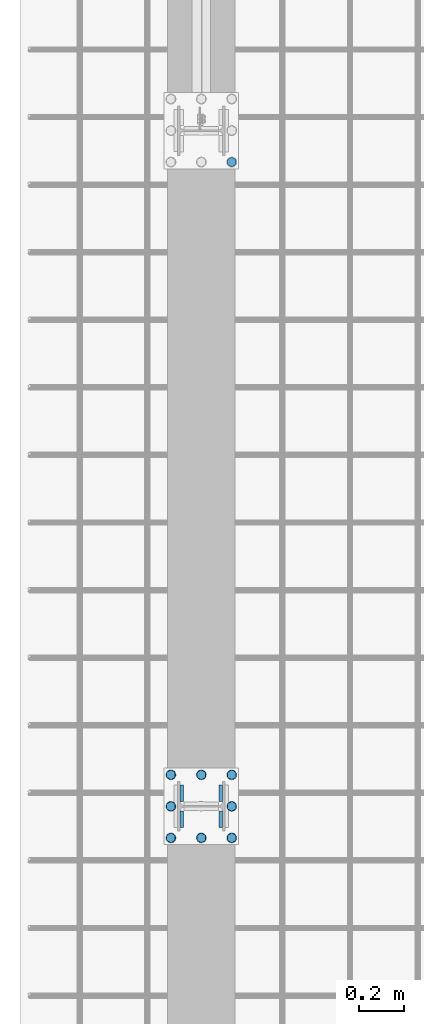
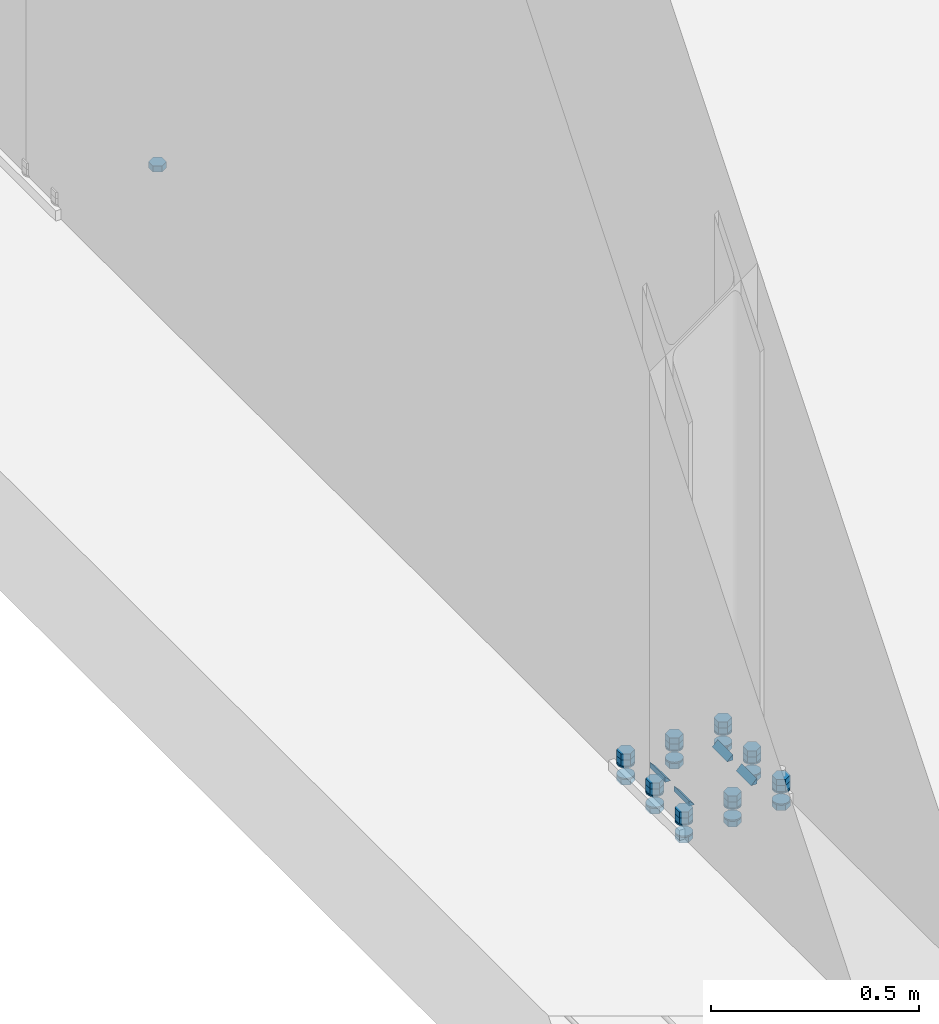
# One storey, part 19 of 29: 41 mechanical fasteners, 8 fasteners.
"""IFC4 building model written with IfcOpenShell, lengths in metres."""

from ifc_helpers import new_model, si_unit, frame, origin_with_axes, place, context, project, spatial, polyline, outline, extrude, type_object, element, save


model = new_model("IFC4")

# Units and contexts
model_context = context("Model", 3, precision=1e-05, world=origin_with_axes())
ifc_project = project(units=[si_unit("LENGTHUNIT", "METRE"), si_unit("AREAUNIT", "SQUARE_METRE"), si_unit("VOLUMEUNIT", "CUBIC_METRE"), si_unit("MASSUNIT", "GRAM", prefix="KILO"), si_unit("TIMEUNIT", "SECOND"), si_unit("PLANEANGLEUNIT", "RADIAN"), si_unit("SOLIDANGLEUNIT", "STERADIAN"), si_unit("THERMODYNAMICTEMPERATUREUNIT", "DEGREE_CELSIUS")], contexts=[model_context])

# Site, building, storey
placement_1 = place(None, origin_with_axes())
site = spatial("IfcSite", under=ifc_project, at=placement_1, Name="Italia", CompositionType="ELEMENT")
building = spatial("IfcBuilding", under=site, at=placement_1, Name="Capannone", CompositionType="ELEMENT")
storey = spatial("IfcBuildingStorey", under=building, at=placement_1, Name="Storey 0", CompositionType="ELEMENT", Elevation=0.0)

# Fasteners
fastener_type_1 = type_object("IfcFastenerType", Name="Collegamenti 0001_0101 0002_0102 0003_0103 0004_0104 0005_0105 0006_0106 0007_0107 0008_0108 0009_0109 0010_0110 0011_0111 0012_0112", PredefinedType="WELD")
placement_2 = place(placement_1, origin_with_axes())
fastener_1_placement = place(placement_2, origin_with_axes())
element("IfcFastener", 1, at=fastener_1_placement, inside=storey, type_object=fastener_type_1, Name="Collegamenti 0001_0101 0002_0102 0003_0103 0004_0104 0005_0105 0006_0106 0007_0107 0008_0108 0009_0109 0010_0110 0011_0111 0012_0112", context=model_context, shape_type="SweptSolid", body=[
    extrude(outline(polyline([(0.0, 0.0), (0.0156882, 0.0161734), (0.0156882, 0.0), (0.0, 0.0)])), frame((-0.0783618, 9.02145, 0.02995), z_axis=(0.0, 1.0, 0.0), x_axis=(-1.0, 0.0, 0.0)), (0.0, 0.0, 1.0), 0.0726004),
])
fastener_type_2 = type_object("IfcFastenerType", Name="Collegamenti 0001_0101 0002_0102 0003_0103 0004_0104 0005_0105 0006_0106 0007_0107 0008_0108 0009_0109 0010_0110 0011_0111 0012_0112", PredefinedType="WELD")
fastener_2_placement = place(placement_2, origin_with_axes())
element("IfcFastener", 2, at=fastener_2_placement, inside=storey, type_object=fastener_type_2, Name="Collegamenti 0001_0101 0002_0102 0003_0103 0004_0104 0005_0105 0006_0106 0007_0107 0008_0108 0009_0109 0010_0110 0011_0111 0012_0112", context=model_context, shape_type="SweptSolid", body=[
    extrude(outline(polyline([(0.0, 0.0), (0.0156882, 0.0161734), (0.0156882, 0.0), (0.0, 0.0)])), frame((0.0783618, 9.09405, 0.02995), z_axis=(0.0, -1.0, 0.0), x_axis=(1.0, 0.0, 0.0)), (0.0, 0.0, 1.0), 0.0726004),
])
fastener_type_3 = type_object("IfcFastenerType", Name="Collegamenti 0001_0101 0002_0102 0003_0103 0004_0104 0005_0105 0006_0106 0007_0107 0008_0108 0009_0109 0010_0110 0011_0111 0012_0112", PredefinedType="WELD")
fastener_3_placement = place(placement_2, origin_with_axes())
element("IfcFastener", 3, at=fastener_3_placement, inside=storey, type_object=fastener_type_3, Name="Collegamenti 0001_0101 0002_0102 0003_0103 0004_0104 0005_0105 0006_0106 0007_0107 0008_0108 0009_0109 0010_0110 0011_0111 0012_0112", context=model_context, shape_type="SweptSolid", body=[
    extrude(outline(polyline([(0.0, 0.0), (0.0156882, 0.0161734), (0.0156882, 0.0), (0.0, 0.0)])), frame((0.0783618, 8.97855, 0.02995), z_axis=(0.0, -1.0, 0.0), x_axis=(1.0, 0.0, 0.0)), (0.0, 0.0, 1.0), 0.0726004),
])
fastener_type_4 = type_object("IfcFastenerType", Name="Collegamenti 0001_0101 0002_0102 0003_0103 0004_0104 0005_0105 0006_0106 0007_0107 0008_0108 0009_0109 0010_0110 0011_0111 0012_0112", PredefinedType="WELD")
fastener_4_placement = place(placement_2, origin_with_axes())
element("IfcFastener", 4, at=fastener_4_placement, inside=storey, type_object=fastener_type_4, Name="Collegamenti 0001_0101 0002_0102 0003_0103 0004_0104 0005_0105 0006_0106 0007_0107 0008_0108 0009_0109 0010_0110 0011_0111 0012_0112", context=model_context, shape_type="SweptSolid", body=[
    extrude(outline(polyline([(0.0, 0.0), (0.0156882, 0.0161734), (0.0156882, 0.0), (0.0, 0.0)])), frame((-0.0783618, 8.90595, 0.02995), z_axis=(0.0, 1.0, 0.0), x_axis=(-1.0, 0.0, 0.0)), (0.0, 0.0, 1.0), 0.0726004),
])
fastener_type_5 = type_object("IfcFastenerType", Name="Collegamenti 0001_0101 0002_0102 0003_0103 0004_0104 0005_0105 0006_0106 0007_0107 0008_0108 0009_0109 0010_0110 0011_0111 0012_0112", PredefinedType="WELD")
fastener_5_placement = place(placement_2, origin_with_axes())
element("IfcFastener", 5, at=fastener_5_placement, inside=storey, type_object=fastener_type_5, Name="Collegamenti 0001_0101 0002_0102 0003_0103 0004_0104 0005_0105 0006_0106 0007_0107 0008_0108 0009_0109 0010_0110 0011_0111 0012_0112", context=model_context, shape_type="SweptSolid", body=[
    extrude(outline(polyline([(0.0, 0.0), (0.0156882, 0.0161734), (0.0156882, 0.0), (0.0, 0.0)])), frame((-0.0783618, 9.02145, 0.02995), z_axis=(0.0, 1.0, 0.0), x_axis=(-1.0, 0.0, 0.0)), (0.0, 0.0, 1.0), 0.0726004),
])
fastener_type_6 = type_object("IfcFastenerType", Name="Collegamenti 0001_0101 0002_0102 0003_0103 0004_0104 0005_0105 0006_0106 0007_0107 0008_0108 0009_0109 0010_0110 0011_0111 0012_0112", PredefinedType="WELD")
fastener_6_placement = place(placement_2, origin_with_axes())
element("IfcFastener", 6, at=fastener_6_placement, inside=storey, type_object=fastener_type_6, Name="Collegamenti 0001_0101 0002_0102 0003_0103 0004_0104 0005_0105 0006_0106 0007_0107 0008_0108 0009_0109 0010_0110 0011_0111 0012_0112", context=model_context, shape_type="SweptSolid", body=[
    extrude(outline(polyline([(0.0, 0.0), (0.0156882, 0.0161734), (0.0156882, 0.0), (0.0, 0.0)])), frame((0.0783618, 9.09405, 0.02995), z_axis=(0.0, -1.0, 0.0), x_axis=(1.0, 0.0, 0.0)), (0.0, 0.0, 1.0), 0.0726004),
])
fastener_type_7 = type_object("IfcFastenerType", Name="Collegamenti 0001_0101 0002_0102 0003_0103 0004_0104 0005_0105 0006_0106 0007_0107 0008_0108 0009_0109 0010_0110 0011_0111 0012_0112", PredefinedType="WELD")
fastener_7_placement = place(placement_2, origin_with_axes())
element("IfcFastener", 7, at=fastener_7_placement, inside=storey, type_object=fastener_type_7, Name="Collegamenti 0001_0101 0002_0102 0003_0103 0004_0104 0005_0105 0006_0106 0007_0107 0008_0108 0009_0109 0010_0110 0011_0111 0012_0112", context=model_context, shape_type="SweptSolid", body=[
    extrude(outline(polyline([(0.0, 0.0), (0.0156882, 0.0161734), (0.0156882, 0.0), (0.0, 0.0)])), frame((0.0783618, 8.97855, 0.02995), z_axis=(0.0, -1.0, 0.0), x_axis=(1.0, 0.0, 0.0)), (0.0, 0.0, 1.0), 0.0726004),
])
fastener_type_8 = type_object("IfcFastenerType", Name="Collegamenti 0001_0101 0002_0102 0003_0103 0004_0104 0005_0105 0006_0106 0007_0107 0008_0108 0009_0109 0010_0110 0011_0111 0012_0112", PredefinedType="WELD")
fastener_8_placement = place(placement_2, origin_with_axes())
element("IfcFastener", 8, at=fastener_8_placement, inside=storey, type_object=fastener_type_8, Name="Collegamenti 0001_0101 0002_0102 0003_0103 0004_0104 0005_0105 0006_0106 0007_0107 0008_0108 0009_0109 0010_0110 0011_0111 0012_0112", context=model_context, shape_type="SweptSolid", body=[
    extrude(outline(polyline([(0.0, 0.0), (0.0156882, 0.0161734), (0.0156882, 0.0), (0.0, 0.0)])), frame((-0.0783618, 8.90595, 0.02995), z_axis=(0.0, 1.0, 0.0), x_axis=(-1.0, 0.0, 0.0)), (0.0, 0.0, 1.0), 0.0726004),
])

# Mechanical fasteners
mechanical_fastener_type_1 = type_object("IfcMechanicalFastenerType", Name="Collegamenti 0001_0101 0002_0102 0003_0103 0004_0104 0005_0105 0006_0106 0007_0107 0008_0108 0009_0109 0010_0110 0011_0111 0012_0112", PredefinedType="BOLT")
mechanical_fastener_1_placement = place(placement_2, origin_with_axes())
element("IfcMechanicalFastener", 9, at=mechanical_fastener_1_placement, inside=storey, type_object=mechanical_fastener_type_1, Name="Collegamenti 0001_0101 0002_0102 0003_0103 0004_0104 0005_0105 0006_0106 0007_0107 0008_0108 0009_0109 0010_0110 0011_0111 0012_0112", NominalDiameter=0.0219998, context=model_context, shape_type="SweptSolid", body=[
    extrude(outline(polyline([(0.0, 0.0), (-0.0220003, 0.0), (-0.033, 0.0190526), (-0.0220003, 0.0381051), (0.0, 0.0381051), (0.0109997, 0.0190526), (0.0, 0.0)])), frame((0.154053, 8.871, 0.034), z_axis=(0.0, 0.0, 1.0), x_axis=(0.0, 1.0, 0.0)), (0.0, 0.0, 1.0), 0.0176),
])
mechanical_fastener_type_2 = type_object("IfcMechanicalFastenerType", Name="Collegamenti 0001_0101 0002_0102 0003_0103 0004_0104 0005_0105 0006_0106 0007_0107 0008_0108 0009_0109 0010_0110 0011_0111 0012_0112", PredefinedType="BOLT")
mechanical_fastener_2_placement = place(placement_2, origin_with_axes())
element("IfcMechanicalFastener", 10, at=mechanical_fastener_2_placement, inside=storey, type_object=mechanical_fastener_type_2, Name="Collegamenti 0001_0101 0002_0102 0003_0103 0004_0104 0005_0105 0006_0106 0007_0107 0008_0108 0009_0109 0010_0110 0011_0111 0012_0112", NominalDiameter=0.0219998, context=model_context, shape_type="SweptSolid", body=[
    extrude(outline(polyline([(0.0, 0.0), (-0.0220003, 0.0), (-0.033, 0.0190526), (-0.0220003, 0.0381051), (0.0, 0.0381051), (0.0109997, 0.0190526), (0.0, 0.0)])), frame((0.154053, 8.871, 0.0516), z_axis=(0.0, 0.0, 1.0), x_axis=(0.0, 1.0, 0.0)), (0.0, 0.0, 1.0), 0.0176),
])
mechanical_fastener_type_3 = type_object("IfcMechanicalFastenerType", Name="Collegamenti 0001_0101 0002_0102 0003_0103 0004_0104 0005_0105 0006_0106 0007_0107 0008_0108 0009_0109 0010_0110 0011_0111 0012_0112", PredefinedType="BOLT")
mechanical_fastener_3_placement = place(placement_2, origin_with_axes())
element("IfcMechanicalFastener", 11, at=mechanical_fastener_3_placement, inside=storey, type_object=mechanical_fastener_type_3, Name="Collegamenti 0001_0101 0002_0102 0003_0103 0004_0104 0005_0105 0006_0106 0007_0107 0008_0108 0009_0109 0010_0110 0011_0111 0012_0112", NominalDiameter=0.0219998, context=model_context, shape_type="SweptSolid", body=[
    extrude(outline(polyline([(0.0, 0.0), (-0.0220003, 0.0), (-0.033, 0.0190526), (-0.0220003, 0.0381051), (0.0, 0.0381051), (0.0109997, 0.0190526), (0.0, 0.0)])), frame((0.154053, 8.871, -0.0216), z_axis=(0.0, 0.0, 1.0), x_axis=(0.0, 1.0, 0.0)), (0.0, 0.0, 1.0), 0.0176),
])
mechanical_fastener_type_4 = type_object("IfcMechanicalFastenerType", Name="Collegamenti 0001_0101 0002_0102 0003_0103 0004_0104 0005_0105 0006_0106 0007_0107 0008_0108 0009_0109 0010_0110 0011_0111 0012_0112", PredefinedType="BOLT")
mechanical_fastener_4_placement = place(placement_2, origin_with_axes())
element("IfcMechanicalFastener", 12, at=mechanical_fastener_4_placement, inside=storey, type_object=mechanical_fastener_type_4, Name="Collegamenti 0001_0101 0002_0102 0003_0103 0004_0104 0005_0105 0006_0106 0007_0107 0008_0108 0009_0109 0010_0110 0011_0111 0012_0112", NominalDiameter=0.044, context=model_context, shape_type="SweptSolid", body=[
    extrude(outline(polyline([(0.0, 0.0), (-0.000749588, -0.00569402), (-0.00294781, -0.011), (-0.00644398, -0.0155564), (-0.0110006, -0.0190526), (-0.0163059, -0.0212504), (-0.0220003, -0.022), (-0.0276947, -0.0212504), (-0.033, -0.0190526), (-0.0375566, -0.0155564), (-0.0410528, -0.011), (-0.043251, -0.00569402), (-0.0440006, 0.0), (-0.043251, 0.00569402), (-0.0410528, 0.011), (-0.0375566, 0.0155564), (-0.033, 0.0190526), (-0.0276947, 0.0212504), (-0.0220003, 0.022), (-0.0163059, 0.0212504), (-0.0110006, 0.0190526), (-0.00644398, 0.0155563), (-0.00294781, 0.011), (-0.000749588, 0.00569402), (0.0, 0.0)])), frame((0.135, 8.882, 0.03), z_axis=(0.0, 0.0, 1.0), x_axis=(0.0, 1.0, 0.0)), (0.0, 0.0, 1.0), 0.004),
])
mechanical_fastener_type_5 = type_object("IfcMechanicalFastenerType", Name="Collegamenti 0001_0101 0002_0102 0003_0103 0004_0104 0005_0105 0006_0106 0007_0107 0008_0108 0009_0109 0010_0110 0011_0111 0012_0112", PredefinedType="BOLT")
mechanical_fastener_5_placement = place(placement_2, origin_with_axes())
element("IfcMechanicalFastener", 13, at=mechanical_fastener_5_placement, inside=storey, type_object=mechanical_fastener_type_5, Name="Collegamenti 0001_0101 0002_0102 0003_0103 0004_0104 0005_0105 0006_0106 0007_0107 0008_0108 0009_0109 0010_0110 0011_0111 0012_0112", NominalDiameter=0.044, context=model_context, shape_type="SweptSolid", body=[
    extrude(outline(polyline([(0.0, 0.0), (-0.000749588, -0.00569402), (-0.00294781, -0.011), (-0.00644398, -0.0155564), (-0.0110006, -0.0190526), (-0.0163059, -0.0212504), (-0.0220003, -0.022), (-0.0276947, -0.0212504), (-0.033, -0.0190526), (-0.0375566, -0.0155564), (-0.0410528, -0.011), (-0.043251, -0.00569402), (-0.0440006, 0.0), (-0.043251, 0.00569402), (-0.0410528, 0.011), (-0.0375566, 0.0155564), (-0.033, 0.0190526), (-0.0276947, 0.0212504), (-0.0220003, 0.022), (-0.0163059, 0.0212504), (-0.0110006, 0.0190526), (-0.00644398, 0.0155563), (-0.00294781, 0.011), (-0.000749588, 0.00569402), (0.0, 0.0)])), frame((0.135, 8.882, -0.004), z_axis=(0.0, 0.0, 1.0), x_axis=(0.0, 1.0, 0.0)), (0.0, 0.0, 1.0), 0.004),
])
mechanical_fastener_type_6 = type_object("IfcMechanicalFastenerType", Name="Collegamenti 0001_0101 0002_0102 0003_0103 0004_0104 0005_0105 0006_0106 0007_0107 0008_0108 0009_0109 0010_0110 0011_0111 0012_0112", PredefinedType="BOLT")
mechanical_fastener_6_placement = place(placement_2, origin_with_axes())
element("IfcMechanicalFastener", 14, at=mechanical_fastener_6_placement, inside=storey, type_object=mechanical_fastener_type_6, Name="Collegamenti 0001_0101 0002_0102 0003_0103 0004_0104 0005_0105 0006_0106 0007_0107 0008_0108 0009_0109 0010_0110 0011_0111 0012_0112", NominalDiameter=0.0219994, context=model_context, shape_type="SweptSolid", body=[
    extrude(outline(polyline([(0.0, 0.0), (-0.0219994, 0.0), (-0.033, 0.0190526), (-0.0219994, 0.0381051), (0.0, 0.0381051), (0.0110006, 0.0190526), (0.0, 0.0)])), frame((0.154053, 9.011, 0.034), z_axis=(0.0, 0.0, 1.0), x_axis=(0.0, 1.0, 0.0)), (0.0, 0.0, 1.0), 0.0176),
])
mechanical_fastener_type_7 = type_object("IfcMechanicalFastenerType", Name="Collegamenti 0001_0101 0002_0102 0003_0103 0004_0104 0005_0105 0006_0106 0007_0107 0008_0108 0009_0109 0010_0110 0011_0111 0012_0112", PredefinedType="BOLT")
mechanical_fastener_7_placement = place(placement_2, origin_with_axes())
element("IfcMechanicalFastener", 15, at=mechanical_fastener_7_placement, inside=storey, type_object=mechanical_fastener_type_7, Name="Collegamenti 0001_0101 0002_0102 0003_0103 0004_0104 0005_0105 0006_0106 0007_0107 0008_0108 0009_0109 0010_0110 0011_0111 0012_0112", NominalDiameter=0.0219994, context=model_context, shape_type="SweptSolid", body=[
    extrude(outline(polyline([(0.0, 0.0), (-0.0219994, 0.0), (-0.033, 0.0190526), (-0.0219994, 0.0381051), (0.0, 0.0381051), (0.0110006, 0.0190526), (0.0, 0.0)])), frame((0.154053, 9.011, 0.0516), z_axis=(0.0, 0.0, 1.0), x_axis=(0.0, 1.0, 0.0)), (0.0, 0.0, 1.0), 0.0176),
])
mechanical_fastener_type_8 = type_object("IfcMechanicalFastenerType", Name="Collegamenti 0001_0101 0002_0102 0003_0103 0004_0104 0005_0105 0006_0106 0007_0107 0008_0108 0009_0109 0010_0110 0011_0111 0012_0112", PredefinedType="BOLT")
mechanical_fastener_8_placement = place(placement_2, origin_with_axes())
element("IfcMechanicalFastener", 16, at=mechanical_fastener_8_placement, inside=storey, type_object=mechanical_fastener_type_8, Name="Collegamenti 0001_0101 0002_0102 0003_0103 0004_0104 0005_0105 0006_0106 0007_0107 0008_0108 0009_0109 0010_0110 0011_0111 0012_0112", NominalDiameter=0.0219994, context=model_context, shape_type="SweptSolid", body=[
    extrude(outline(polyline([(0.0, 0.0), (-0.0219994, 0.0), (-0.033, 0.0190526), (-0.0219994, 0.0381051), (0.0, 0.0381051), (0.0110006, 0.0190526), (0.0, 0.0)])), frame((0.154053, 9.011, -0.0216), z_axis=(0.0, 0.0, 1.0), x_axis=(0.0, 1.0, 0.0)), (0.0, 0.0, 1.0), 0.0176),
])
mechanical_fastener_type_9 = type_object("IfcMechanicalFastenerType", Name="Collegamenti 0001_0101 0002_0102 0003_0103 0004_0104 0005_0105 0006_0106 0007_0107 0008_0108 0009_0109 0010_0110 0011_0111 0012_0112", PredefinedType="BOLT")
mechanical_fastener_9_placement = place(placement_2, origin_with_axes())
element("IfcMechanicalFastener", 17, at=mechanical_fastener_9_placement, inside=storey, type_object=mechanical_fastener_type_9, Name="Collegamenti 0001_0101 0002_0102 0003_0103 0004_0104 0005_0105 0006_0106 0007_0107 0008_0108 0009_0109 0010_0110 0011_0111 0012_0112", NominalDiameter=0.044, context=model_context, shape_type="SweptSolid", body=[
    extrude(outline(polyline([(0.0, 0.0), (-0.000749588, -0.00569402), (-0.00294781, -0.011), (-0.00644398, -0.0155564), (-0.0110006, -0.0190526), (-0.0163059, -0.0212504), (-0.0220003, -0.022), (-0.0276947, -0.0212504), (-0.033, -0.0190526), (-0.0375566, -0.0155564), (-0.0410528, -0.011), (-0.043251, -0.00569402), (-0.0440006, 0.0), (-0.043251, 0.00569402), (-0.0410528, 0.011), (-0.0375566, 0.0155564), (-0.033, 0.0190526), (-0.0276947, 0.0212504), (-0.0220003, 0.022), (-0.0163059, 0.0212504), (-0.0110006, 0.0190526), (-0.00644398, 0.0155563), (-0.00294781, 0.011), (-0.000749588, 0.00569402), (0.0, 0.0)])), frame((0.135, 9.022, 0.03), z_axis=(0.0, 0.0, 1.0), x_axis=(0.0, 1.0, 0.0)), (0.0, 0.0, 1.0), 0.004),
])
mechanical_fastener_type_10 = type_object("IfcMechanicalFastenerType", Name="Collegamenti 0001_0101 0002_0102 0003_0103 0004_0104 0005_0105 0006_0106 0007_0107 0008_0108 0009_0109 0010_0110 0011_0111 0012_0112", PredefinedType="BOLT")
mechanical_fastener_10_placement = place(placement_2, origin_with_axes())
element("IfcMechanicalFastener", 18, at=mechanical_fastener_10_placement, inside=storey, type_object=mechanical_fastener_type_10, Name="Collegamenti 0001_0101 0002_0102 0003_0103 0004_0104 0005_0105 0006_0106 0007_0107 0008_0108 0009_0109 0010_0110 0011_0111 0012_0112", NominalDiameter=0.044, context=model_context, shape_type="SweptSolid", body=[
    extrude(outline(polyline([(0.0, 0.0), (-0.000749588, -0.00569402), (-0.00294781, -0.011), (-0.00644398, -0.0155564), (-0.0110006, -0.0190526), (-0.0163059, -0.0212504), (-0.0220003, -0.022), (-0.0276947, -0.0212504), (-0.033, -0.0190526), (-0.0375566, -0.0155564), (-0.0410528, -0.011), (-0.043251, -0.00569402), (-0.0440006, 0.0), (-0.043251, 0.00569402), (-0.0410528, 0.011), (-0.0375566, 0.0155564), (-0.033, 0.0190526), (-0.0276947, 0.0212504), (-0.0220003, 0.022), (-0.0163059, 0.0212504), (-0.0110006, 0.0190526), (-0.00644398, 0.0155563), (-0.00294781, 0.011), (-0.000749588, 0.00569402), (0.0, 0.0)])), frame((0.135, 9.022, -0.004), z_axis=(0.0, 0.0, 1.0), x_axis=(0.0, 1.0, 0.0)), (0.0, 0.0, 1.0), 0.004),
])
mechanical_fastener_type_11 = type_object("IfcMechanicalFastenerType", Name="Collegamenti 0001_0101 0002_0102 0003_0103 0004_0104 0005_0105 0006_0106 0007_0107 0008_0108 0009_0109 0010_0110 0011_0111 0012_0112", PredefinedType="BOLT")
mechanical_fastener_11_placement = place(placement_2, origin_with_axes())
element("IfcMechanicalFastener", 19, at=mechanical_fastener_11_placement, inside=storey, type_object=mechanical_fastener_type_11, Name="Collegamenti 0001_0101 0002_0102 0003_0103 0004_0104 0005_0105 0006_0106 0007_0107 0008_0108 0009_0109 0010_0110 0011_0111 0012_0112", NominalDiameter=0.0219998, context=model_context, shape_type="SweptSolid", body=[
    extrude(outline(polyline([(0.0, 0.0), (-0.0220003, 0.0), (-0.033, 0.0190526), (-0.0220003, 0.0381051), (0.0, 0.0381051), (0.0109997, 0.0190526), (0.0, 0.0)])), frame((0.154053, 9.151, 0.034), z_axis=(0.0, 0.0, 1.0), x_axis=(0.0, 1.0, 0.0)), (0.0, 0.0, 1.0), 0.0176),
])
mechanical_fastener_type_12 = type_object("IfcMechanicalFastenerType", Name="Collegamenti 0001_0101 0002_0102 0003_0103 0004_0104 0005_0105 0006_0106 0007_0107 0008_0108 0009_0109 0010_0110 0011_0111 0012_0112", PredefinedType="BOLT")
mechanical_fastener_12_placement = place(placement_2, origin_with_axes())
element("IfcMechanicalFastener", 20, at=mechanical_fastener_12_placement, inside=storey, type_object=mechanical_fastener_type_12, Name="Collegamenti 0001_0101 0002_0102 0003_0103 0004_0104 0005_0105 0006_0106 0007_0107 0008_0108 0009_0109 0010_0110 0011_0111 0012_0112", NominalDiameter=0.0219998, context=model_context, shape_type="SweptSolid", body=[
    extrude(outline(polyline([(0.0, 0.0), (-0.0220003, 0.0), (-0.033, 0.0190526), (-0.0220003, 0.0381051), (0.0, 0.0381051), (0.0109997, 0.0190526), (0.0, 0.0)])), frame((0.154053, 9.151, 0.0516), z_axis=(0.0, 0.0, 1.0), x_axis=(0.0, 1.0, 0.0)), (0.0, 0.0, 1.0), 0.0176),
])
mechanical_fastener_type_13 = type_object("IfcMechanicalFastenerType", Name="Collegamenti 0001_0101 0002_0102 0003_0103 0004_0104 0005_0105 0006_0106 0007_0107 0008_0108 0009_0109 0010_0110 0011_0111 0012_0112", PredefinedType="BOLT")
mechanical_fastener_13_placement = place(placement_2, origin_with_axes())
element("IfcMechanicalFastener", 21, at=mechanical_fastener_13_placement, inside=storey, type_object=mechanical_fastener_type_13, Name="Collegamenti 0001_0101 0002_0102 0003_0103 0004_0104 0005_0105 0006_0106 0007_0107 0008_0108 0009_0109 0010_0110 0011_0111 0012_0112", NominalDiameter=0.0219998, context=model_context, shape_type="SweptSolid", body=[
    extrude(outline(polyline([(0.0, 0.0), (-0.0220003, 0.0), (-0.033, 0.0190526), (-0.0220003, 0.0381051), (0.0, 0.0381051), (0.0109997, 0.0190526), (0.0, 0.0)])), frame((0.154053, 9.151, -0.0216), z_axis=(0.0, 0.0, 1.0), x_axis=(0.0, 1.0, 0.0)), (0.0, 0.0, 1.0), 0.0176),
])
mechanical_fastener_type_14 = type_object("IfcMechanicalFastenerType", Name="Collegamenti 0001_0101 0002_0102 0003_0103 0004_0104 0005_0105 0006_0106 0007_0107 0008_0108 0009_0109 0010_0110 0011_0111 0012_0112", PredefinedType="BOLT")
mechanical_fastener_14_placement = place(placement_2, origin_with_axes())
element("IfcMechanicalFastener", 22, at=mechanical_fastener_14_placement, inside=storey, type_object=mechanical_fastener_type_14, Name="Collegamenti 0001_0101 0002_0102 0003_0103 0004_0104 0005_0105 0006_0106 0007_0107 0008_0108 0009_0109 0010_0110 0011_0111 0012_0112", NominalDiameter=0.044, context=model_context, shape_type="SweptSolid", body=[
    extrude(outline(polyline([(0.0, 0.0), (-0.000749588, -0.00569402), (-0.00294781, -0.011), (-0.00644398, -0.0155564), (-0.0110006, -0.0190526), (-0.0163059, -0.0212504), (-0.0220003, -0.022), (-0.0276947, -0.0212504), (-0.033, -0.0190526), (-0.0375566, -0.0155564), (-0.0410528, -0.011), (-0.043251, -0.00569402), (-0.0440006, 0.0), (-0.043251, 0.00569402), (-0.0410528, 0.011), (-0.0375566, 0.0155564), (-0.033, 0.0190526), (-0.0276947, 0.0212504), (-0.0220003, 0.022), (-0.0163059, 0.0212504), (-0.0110006, 0.0190526), (-0.00644398, 0.0155563), (-0.00294781, 0.011), (-0.000749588, 0.00569402), (0.0, 0.0)])), frame((0.135, 9.162, 0.03), z_axis=(0.0, 0.0, 1.0), x_axis=(0.0, 1.0, 0.0)), (0.0, 0.0, 1.0), 0.004),
])
mechanical_fastener_type_15 = type_object("IfcMechanicalFastenerType", Name="Collegamenti 0001_0101 0002_0102 0003_0103 0004_0104 0005_0105 0006_0106 0007_0107 0008_0108 0009_0109 0010_0110 0011_0111 0012_0112", PredefinedType="BOLT")
mechanical_fastener_15_placement = place(placement_2, origin_with_axes())
element("IfcMechanicalFastener", 23, at=mechanical_fastener_15_placement, inside=storey, type_object=mechanical_fastener_type_15, Name="Collegamenti 0001_0101 0002_0102 0003_0103 0004_0104 0005_0105 0006_0106 0007_0107 0008_0108 0009_0109 0010_0110 0011_0111 0012_0112", NominalDiameter=0.044, context=model_context, shape_type="SweptSolid", body=[
    extrude(outline(polyline([(0.0, 0.0), (-0.000749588, -0.00569402), (-0.00294781, -0.011), (-0.00644398, -0.0155564), (-0.0110006, -0.0190526), (-0.0163059, -0.0212504), (-0.0220003, -0.022), (-0.0276947, -0.0212504), (-0.033, -0.0190526), (-0.0375566, -0.0155564), (-0.0410528, -0.011), (-0.043251, -0.00569402), (-0.0440006, 0.0), (-0.043251, 0.00569402), (-0.0410528, 0.011), (-0.0375566, 0.0155564), (-0.033, 0.0190526), (-0.0276947, 0.0212504), (-0.0220003, 0.022), (-0.0163059, 0.0212504), (-0.0110006, 0.0190526), (-0.00644398, 0.0155563), (-0.00294781, 0.011), (-0.000749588, 0.00569402), (0.0, 0.0)])), frame((0.135, 9.162, -0.004), z_axis=(0.0, 0.0, 1.0), x_axis=(0.0, 1.0, 0.0)), (0.0, 0.0, 1.0), 0.004),
])
mechanical_fastener_type_16 = type_object("IfcMechanicalFastenerType", Name="Collegamenti 0001_0101 0002_0102 0003_0103 0004_0104 0005_0105 0006_0106 0007_0107 0008_0108 0009_0109 0010_0110 0011_0111 0012_0112", PredefinedType="BOLT")
mechanical_fastener_16_placement = place(placement_2, origin_with_axes())
element("IfcMechanicalFastener", 24, at=mechanical_fastener_16_placement, inside=storey, type_object=mechanical_fastener_type_16, Name="Collegamenti 0001_0101 0002_0102 0003_0103 0004_0104 0005_0105 0006_0106 0007_0107 0008_0108 0009_0109 0010_0110 0011_0111 0012_0112", NominalDiameter=0.0219998, context=model_context, shape_type="SweptSolid", body=[
    extrude(outline(polyline([(0.0, 0.0), (-0.0220003, 0.0), (-0.033, 0.0190526), (-0.0220003, 0.0381051), (0.0, 0.0381051), (0.0109997, 0.0190526), (0.0, 0.0)])), frame((0.0190526, 8.871, 0.034), z_axis=(0.0, 0.0, 1.0), x_axis=(0.0, 1.0, 0.0)), (0.0, 0.0, 1.0), 0.0176),
])
mechanical_fastener_type_17 = type_object("IfcMechanicalFastenerType", Name="Collegamenti 0001_0101 0002_0102 0003_0103 0004_0104 0005_0105 0006_0106 0007_0107 0008_0108 0009_0109 0010_0110 0011_0111 0012_0112", PredefinedType="BOLT")
mechanical_fastener_17_placement = place(placement_2, origin_with_axes())
element("IfcMechanicalFastener", 25, at=mechanical_fastener_17_placement, inside=storey, type_object=mechanical_fastener_type_17, Name="Collegamenti 0001_0101 0002_0102 0003_0103 0004_0104 0005_0105 0006_0106 0007_0107 0008_0108 0009_0109 0010_0110 0011_0111 0012_0112", NominalDiameter=0.0219998, context=model_context, shape_type="SweptSolid", body=[
    extrude(outline(polyline([(0.0, 0.0), (-0.0220003, 0.0), (-0.033, 0.0190526), (-0.0220003, 0.0381051), (0.0, 0.0381051), (0.0109997, 0.0190526), (0.0, 0.0)])), frame((0.0190526, 8.871, 0.0516), z_axis=(0.0, 0.0, 1.0), x_axis=(0.0, 1.0, 0.0)), (0.0, 0.0, 1.0), 0.0176),
])
mechanical_fastener_type_18 = type_object("IfcMechanicalFastenerType", Name="Collegamenti 0001_0101 0002_0102 0003_0103 0004_0104 0005_0105 0006_0106 0007_0107 0008_0108 0009_0109 0010_0110 0011_0111 0012_0112", PredefinedType="BOLT")
mechanical_fastener_18_placement = place(placement_2, origin_with_axes())
element("IfcMechanicalFastener", 26, at=mechanical_fastener_18_placement, inside=storey, type_object=mechanical_fastener_type_18, Name="Collegamenti 0001_0101 0002_0102 0003_0103 0004_0104 0005_0105 0006_0106 0007_0107 0008_0108 0009_0109 0010_0110 0011_0111 0012_0112", NominalDiameter=0.0219998, context=model_context, shape_type="SweptSolid", body=[
    extrude(outline(polyline([(0.0, 0.0), (-0.0220003, 0.0), (-0.033, 0.0190526), (-0.0220003, 0.0381051), (0.0, 0.0381051), (0.0109997, 0.0190526), (0.0, 0.0)])), frame((0.0190526, 8.871, -0.0216), z_axis=(0.0, 0.0, 1.0), x_axis=(0.0, 1.0, 0.0)), (0.0, 0.0, 1.0), 0.0176),
])
mechanical_fastener_type_19 = type_object("IfcMechanicalFastenerType", Name="Collegamenti 0001_0101 0002_0102 0003_0103 0004_0104 0005_0105 0006_0106 0007_0107 0008_0108 0009_0109 0010_0110 0011_0111 0012_0112", PredefinedType="BOLT")
mechanical_fastener_19_placement = place(placement_2, origin_with_axes())
element("IfcMechanicalFastener", 27, at=mechanical_fastener_19_placement, inside=storey, type_object=mechanical_fastener_type_19, Name="Collegamenti 0001_0101 0002_0102 0003_0103 0004_0104 0005_0105 0006_0106 0007_0107 0008_0108 0009_0109 0010_0110 0011_0111 0012_0112", NominalDiameter=0.044, context=model_context, shape_type="SweptSolid", body=[
    extrude(outline(polyline([(0.0, 0.0), (-0.000749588, -0.00569402), (-0.00294781, -0.011), (-0.00644398, -0.0155563), (-0.0110006, -0.0190526), (-0.0163059, -0.0212504), (-0.0220003, -0.022), (-0.0276947, -0.0212504), (-0.033, -0.0190526), (-0.0375566, -0.0155563), (-0.0410528, -0.011), (-0.043251, -0.00569402), (-0.0440006, 0.0), (-0.043251, 0.00569402), (-0.0410528, 0.011), (-0.0375566, 0.0155564), (-0.033, 0.0190526), (-0.0276947, 0.0212504), (-0.0220003, 0.022), (-0.0163059, 0.0212504), (-0.0110006, 0.0190526), (-0.00644398, 0.0155563), (-0.00294781, 0.011), (-0.000749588, 0.00569401), (0.0, 0.0)])), frame((0.0, 8.882, 0.03), z_axis=(0.0, 0.0, 1.0), x_axis=(0.0, 1.0, 0.0)), (0.0, 0.0, 1.0), 0.004),
])
mechanical_fastener_type_20 = type_object("IfcMechanicalFastenerType", Name="Collegamenti 0001_0101 0002_0102 0003_0103 0004_0104 0005_0105 0006_0106 0007_0107 0008_0108 0009_0109 0010_0110 0011_0111 0012_0112", PredefinedType="BOLT")
mechanical_fastener_20_placement = place(placement_2, origin_with_axes())
element("IfcMechanicalFastener", 28, at=mechanical_fastener_20_placement, inside=storey, type_object=mechanical_fastener_type_20, Name="Collegamenti 0001_0101 0002_0102 0003_0103 0004_0104 0005_0105 0006_0106 0007_0107 0008_0108 0009_0109 0010_0110 0011_0111 0012_0112", NominalDiameter=0.044, context=model_context, shape_type="SweptSolid", body=[
    extrude(outline(polyline([(0.0, 0.0), (-0.000749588, -0.00569402), (-0.00294781, -0.011), (-0.00644398, -0.0155563), (-0.0110006, -0.0190526), (-0.0163059, -0.0212504), (-0.0220003, -0.022), (-0.0276947, -0.0212504), (-0.033, -0.0190526), (-0.0375566, -0.0155563), (-0.0410528, -0.011), (-0.043251, -0.00569402), (-0.0440006, 0.0), (-0.043251, 0.00569402), (-0.0410528, 0.011), (-0.0375566, 0.0155564), (-0.033, 0.0190526), (-0.0276947, 0.0212504), (-0.0220003, 0.022), (-0.0163059, 0.0212504), (-0.0110006, 0.0190526), (-0.00644398, 0.0155563), (-0.00294781, 0.011), (-0.000749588, 0.00569401), (0.0, 0.0)])), frame((0.0, 8.882, -0.004), z_axis=(0.0, 0.0, 1.0), x_axis=(0.0, 1.0, 0.0)), (0.0, 0.0, 1.0), 0.004),
])
mechanical_fastener_type_21 = type_object("IfcMechanicalFastenerType", Name="Collegamenti 0001_0101 0002_0102 0003_0103 0004_0104 0005_0105 0006_0106 0007_0107 0008_0108 0009_0109 0010_0110 0011_0111 0012_0112", PredefinedType="BOLT")
mechanical_fastener_21_placement = place(placement_2, origin_with_axes())
element("IfcMechanicalFastener", 29, at=mechanical_fastener_21_placement, inside=storey, type_object=mechanical_fastener_type_21, Name="Collegamenti 0001_0101 0002_0102 0003_0103 0004_0104 0005_0105 0006_0106 0007_0107 0008_0108 0009_0109 0010_0110 0011_0111 0012_0112", NominalDiameter=0.0219998, context=model_context, shape_type="SweptSolid", body=[
    extrude(outline(polyline([(0.0, 0.0), (-0.0220003, 0.0), (-0.033, 0.0190526), (-0.0220003, 0.0381051), (0.0, 0.0381051), (0.0109997, 0.0190526), (0.0, 0.0)])), frame((0.0190526, 9.151, 0.034), z_axis=(0.0, 0.0, 1.0), x_axis=(0.0, 1.0, 0.0)), (0.0, 0.0, 1.0), 0.0176),
])
mechanical_fastener_type_22 = type_object("IfcMechanicalFastenerType", Name="Collegamenti 0001_0101 0002_0102 0003_0103 0004_0104 0005_0105 0006_0106 0007_0107 0008_0108 0009_0109 0010_0110 0011_0111 0012_0112", PredefinedType="BOLT")
mechanical_fastener_22_placement = place(placement_2, origin_with_axes())
element("IfcMechanicalFastener", 30, at=mechanical_fastener_22_placement, inside=storey, type_object=mechanical_fastener_type_22, Name="Collegamenti 0001_0101 0002_0102 0003_0103 0004_0104 0005_0105 0006_0106 0007_0107 0008_0108 0009_0109 0010_0110 0011_0111 0012_0112", NominalDiameter=0.0219998, context=model_context, shape_type="SweptSolid", body=[
    extrude(outline(polyline([(0.0, 0.0), (-0.0220003, 0.0), (-0.033, 0.0190526), (-0.0220003, 0.0381051), (0.0, 0.0381051), (0.0109997, 0.0190526), (0.0, 0.0)])), frame((0.0190526, 9.151, 0.0516), z_axis=(0.0, 0.0, 1.0), x_axis=(0.0, 1.0, 0.0)), (0.0, 0.0, 1.0), 0.0176),
])
mechanical_fastener_type_23 = type_object("IfcMechanicalFastenerType", Name="Collegamenti 0001_0101 0002_0102 0003_0103 0004_0104 0005_0105 0006_0106 0007_0107 0008_0108 0009_0109 0010_0110 0011_0111 0012_0112", PredefinedType="BOLT")
mechanical_fastener_23_placement = place(placement_2, origin_with_axes())
element("IfcMechanicalFastener", 31, at=mechanical_fastener_23_placement, inside=storey, type_object=mechanical_fastener_type_23, Name="Collegamenti 0001_0101 0002_0102 0003_0103 0004_0104 0005_0105 0006_0106 0007_0107 0008_0108 0009_0109 0010_0110 0011_0111 0012_0112", NominalDiameter=0.0219998, context=model_context, shape_type="SweptSolid", body=[
    extrude(outline(polyline([(0.0, 0.0), (-0.0220003, 0.0), (-0.033, 0.0190526), (-0.0220003, 0.0381051), (0.0, 0.0381051), (0.0109997, 0.0190526), (0.0, 0.0)])), frame((0.0190526, 9.151, -0.0216), z_axis=(0.0, 0.0, 1.0), x_axis=(0.0, 1.0, 0.0)), (0.0, 0.0, 1.0), 0.0176),
])
mechanical_fastener_type_24 = type_object("IfcMechanicalFastenerType", Name="Collegamenti 0001_0101 0002_0102 0003_0103 0004_0104 0005_0105 0006_0106 0007_0107 0008_0108 0009_0109 0010_0110 0011_0111 0012_0112", PredefinedType="BOLT")
mechanical_fastener_24_placement = place(placement_2, origin_with_axes())
element("IfcMechanicalFastener", 32, at=mechanical_fastener_24_placement, inside=storey, type_object=mechanical_fastener_type_24, Name="Collegamenti 0001_0101 0002_0102 0003_0103 0004_0104 0005_0105 0006_0106 0007_0107 0008_0108 0009_0109 0010_0110 0011_0111 0012_0112", NominalDiameter=0.044, context=model_context, shape_type="SweptSolid", body=[
    extrude(outline(polyline([(0.0, 0.0), (-0.000749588, -0.00569402), (-0.00294781, -0.011), (-0.00644398, -0.0155563), (-0.0110006, -0.0190526), (-0.0163059, -0.0212504), (-0.0220003, -0.022), (-0.0276947, -0.0212504), (-0.033, -0.0190526), (-0.0375566, -0.0155563), (-0.0410528, -0.011), (-0.043251, -0.00569402), (-0.0440006, 0.0), (-0.043251, 0.00569402), (-0.0410528, 0.011), (-0.0375566, 0.0155564), (-0.033, 0.0190526), (-0.0276947, 0.0212504), (-0.0220003, 0.022), (-0.0163059, 0.0212504), (-0.0110006, 0.0190526), (-0.00644398, 0.0155563), (-0.00294781, 0.011), (-0.000749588, 0.00569401), (0.0, 0.0)])), frame((0.0, 9.162, 0.03), z_axis=(0.0, 0.0, 1.0), x_axis=(0.0, 1.0, 0.0)), (0.0, 0.0, 1.0), 0.004),
])
mechanical_fastener_type_25 = type_object("IfcMechanicalFastenerType", Name="Collegamenti 0001_0101 0002_0102 0003_0103 0004_0104 0005_0105 0006_0106 0007_0107 0008_0108 0009_0109 0010_0110 0011_0111 0012_0112", PredefinedType="BOLT")
mechanical_fastener_25_placement = place(placement_2, origin_with_axes())
element("IfcMechanicalFastener", 33, at=mechanical_fastener_25_placement, inside=storey, type_object=mechanical_fastener_type_25, Name="Collegamenti 0001_0101 0002_0102 0003_0103 0004_0104 0005_0105 0006_0106 0007_0107 0008_0108 0009_0109 0010_0110 0011_0111 0012_0112", NominalDiameter=0.044, context=model_context, shape_type="SweptSolid", body=[
    extrude(outline(polyline([(0.0, 0.0), (-0.000749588, -0.00569402), (-0.00294781, -0.011), (-0.00644398, -0.0155563), (-0.0110006, -0.0190526), (-0.0163059, -0.0212504), (-0.0220003, -0.022), (-0.0276947, -0.0212504), (-0.033, -0.0190526), (-0.0375566, -0.0155563), (-0.0410528, -0.011), (-0.043251, -0.00569402), (-0.0440006, 0.0), (-0.043251, 0.00569402), (-0.0410528, 0.011), (-0.0375566, 0.0155564), (-0.033, 0.0190526), (-0.0276947, 0.0212504), (-0.0220003, 0.022), (-0.0163059, 0.0212504), (-0.0110006, 0.0190526), (-0.00644398, 0.0155563), (-0.00294781, 0.011), (-0.000749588, 0.00569401), (0.0, 0.0)])), frame((0.0, 9.162, -0.004), z_axis=(0.0, 0.0, 1.0), x_axis=(0.0, 1.0, 0.0)), (0.0, 0.0, 1.0), 0.004),
])
mechanical_fastener_type_26 = type_object("IfcMechanicalFastenerType", Name="Collegamenti 0001_0101 0002_0102 0003_0103 0004_0104 0005_0105 0006_0106 0007_0107 0008_0108 0009_0109 0010_0110 0011_0111 0012_0112", PredefinedType="BOLT")
mechanical_fastener_26_placement = place(placement_2, origin_with_axes())
element("IfcMechanicalFastener", 34, at=mechanical_fastener_26_placement, inside=storey, type_object=mechanical_fastener_type_26, Name="Collegamenti 0001_0101 0002_0102 0003_0103 0004_0104 0005_0105 0006_0106 0007_0107 0008_0108 0009_0109 0010_0110 0011_0111 0012_0112", NominalDiameter=0.0219998, context=model_context, shape_type="SweptSolid", body=[
    extrude(outline(polyline([(0.0, 0.0), (-0.0220003, 0.0), (-0.033, 0.0190526), (-0.0220003, 0.0381051), (0.0, 0.0381051), (0.0109997, 0.0190526), (0.0, 0.0)])), frame((-0.115947, 8.871, 0.034), z_axis=(0.0, 0.0, 1.0), x_axis=(0.0, 1.0, 0.0)), (0.0, 0.0, 1.0), 0.0176),
])
mechanical_fastener_type_27 = type_object("IfcMechanicalFastenerType", Name="Collegamenti 0001_0101 0002_0102 0003_0103 0004_0104 0005_0105 0006_0106 0007_0107 0008_0108 0009_0109 0010_0110 0011_0111 0012_0112", PredefinedType="BOLT")
mechanical_fastener_27_placement = place(placement_2, origin_with_axes())
element("IfcMechanicalFastener", 35, at=mechanical_fastener_27_placement, inside=storey, type_object=mechanical_fastener_type_27, Name="Collegamenti 0001_0101 0002_0102 0003_0103 0004_0104 0005_0105 0006_0106 0007_0107 0008_0108 0009_0109 0010_0110 0011_0111 0012_0112", NominalDiameter=0.0219998, context=model_context, shape_type="SweptSolid", body=[
    extrude(outline(polyline([(0.0, 0.0), (-0.0220003, 0.0), (-0.033, 0.0190526), (-0.0220003, 0.0381051), (0.0, 0.0381051), (0.0109997, 0.0190526), (0.0, 0.0)])), frame((-0.115947, 8.871, 0.0516), z_axis=(0.0, 0.0, 1.0), x_axis=(0.0, 1.0, 0.0)), (0.0, 0.0, 1.0), 0.0176),
])
mechanical_fastener_type_28 = type_object("IfcMechanicalFastenerType", Name="Collegamenti 0001_0101 0002_0102 0003_0103 0004_0104 0005_0105 0006_0106 0007_0107 0008_0108 0009_0109 0010_0110 0011_0111 0012_0112", PredefinedType="BOLT")
mechanical_fastener_28_placement = place(placement_2, origin_with_axes())
element("IfcMechanicalFastener", 36, at=mechanical_fastener_28_placement, inside=storey, type_object=mechanical_fastener_type_28, Name="Collegamenti 0001_0101 0002_0102 0003_0103 0004_0104 0005_0105 0006_0106 0007_0107 0008_0108 0009_0109 0010_0110 0011_0111 0012_0112", NominalDiameter=0.0219998, context=model_context, shape_type="SweptSolid", body=[
    extrude(outline(polyline([(0.0, 0.0), (-0.0220003, 0.0), (-0.033, 0.0190526), (-0.0220003, 0.0381051), (0.0, 0.0381051), (0.0109997, 0.0190526), (0.0, 0.0)])), frame((-0.115947, 8.871, -0.0216), z_axis=(0.0, 0.0, 1.0), x_axis=(0.0, 1.0, 0.0)), (0.0, 0.0, 1.0), 0.0176),
])
mechanical_fastener_type_29 = type_object("IfcMechanicalFastenerType", Name="Collegamenti 0001_0101 0002_0102 0003_0103 0004_0104 0005_0105 0006_0106 0007_0107 0008_0108 0009_0109 0010_0110 0011_0111 0012_0112", PredefinedType="BOLT")
mechanical_fastener_29_placement = place(placement_2, origin_with_axes())
element("IfcMechanicalFastener", 37, at=mechanical_fastener_29_placement, inside=storey, type_object=mechanical_fastener_type_29, Name="Collegamenti 0001_0101 0002_0102 0003_0103 0004_0104 0005_0105 0006_0106 0007_0107 0008_0108 0009_0109 0010_0110 0011_0111 0012_0112", NominalDiameter=0.044, context=model_context, shape_type="SweptSolid", body=[
    extrude(outline(polyline([(0.0, 0.0), (-0.000749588, -0.00569402), (-0.00294781, -0.011), (-0.00644398, -0.0155564), (-0.0110006, -0.0190526), (-0.0163059, -0.0212504), (-0.0220003, -0.022), (-0.0276947, -0.0212504), (-0.033, -0.0190526), (-0.0375566, -0.0155564), (-0.0410528, -0.011), (-0.043251, -0.00569402), (-0.0440006, 0.0), (-0.043251, 0.00569402), (-0.0410528, 0.011), (-0.0375566, 0.0155564), (-0.033, 0.0190526), (-0.0276947, 0.0212504), (-0.0220003, 0.022), (-0.0163059, 0.0212504), (-0.0110006, 0.0190526), (-0.00644398, 0.0155564), (-0.00294781, 0.011), (-0.000749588, 0.00569402), (0.0, 0.0)])), frame((-0.135, 8.882, 0.03), z_axis=(0.0, 0.0, 1.0), x_axis=(0.0, 1.0, 0.0)), (0.0, 0.0, 1.0), 0.004),
])
mechanical_fastener_type_30 = type_object("IfcMechanicalFastenerType", Name="Collegamenti 0001_0101 0002_0102 0003_0103 0004_0104 0005_0105 0006_0106 0007_0107 0008_0108 0009_0109 0010_0110 0011_0111 0012_0112", PredefinedType="BOLT")
mechanical_fastener_30_placement = place(placement_2, origin_with_axes())
element("IfcMechanicalFastener", 38, at=mechanical_fastener_30_placement, inside=storey, type_object=mechanical_fastener_type_30, Name="Collegamenti 0001_0101 0002_0102 0003_0103 0004_0104 0005_0105 0006_0106 0007_0107 0008_0108 0009_0109 0010_0110 0011_0111 0012_0112", NominalDiameter=0.044, context=model_context, shape_type="SweptSolid", body=[
    extrude(outline(polyline([(0.0, 0.0), (-0.000749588, -0.00569402), (-0.00294781, -0.011), (-0.00644398, -0.0155564), (-0.0110006, -0.0190526), (-0.0163059, -0.0212504), (-0.0220003, -0.022), (-0.0276947, -0.0212504), (-0.033, -0.0190526), (-0.0375566, -0.0155564), (-0.0410528, -0.011), (-0.043251, -0.00569402), (-0.0440006, 0.0), (-0.043251, 0.00569402), (-0.0410528, 0.011), (-0.0375566, 0.0155564), (-0.033, 0.0190526), (-0.0276947, 0.0212504), (-0.0220003, 0.022), (-0.0163059, 0.0212504), (-0.0110006, 0.0190526), (-0.00644398, 0.0155564), (-0.00294781, 0.011), (-0.000749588, 0.00569402), (0.0, 0.0)])), frame((-0.135, 8.882, -0.004), z_axis=(0.0, 0.0, 1.0), x_axis=(0.0, 1.0, 0.0)), (0.0, 0.0, 1.0), 0.004),
])
mechanical_fastener_type_31 = type_object("IfcMechanicalFastenerType", Name="Collegamenti 0001_0101 0002_0102 0003_0103 0004_0104 0005_0105 0006_0106 0007_0107 0008_0108 0009_0109 0010_0110 0011_0111 0012_0112", PredefinedType="BOLT")
mechanical_fastener_31_placement = place(placement_2, origin_with_axes())
element("IfcMechanicalFastener", 39, at=mechanical_fastener_31_placement, inside=storey, type_object=mechanical_fastener_type_31, Name="Collegamenti 0001_0101 0002_0102 0003_0103 0004_0104 0005_0105 0006_0106 0007_0107 0008_0108 0009_0109 0010_0110 0011_0111 0012_0112", NominalDiameter=0.0219994, context=model_context, shape_type="SweptSolid", body=[
    extrude(outline(polyline([(0.0, 0.0), (-0.0219994, 0.0), (-0.033, 0.0190526), (-0.0219994, 0.0381051), (0.0, 0.0381051), (0.0110006, 0.0190526), (0.0, 0.0)])), frame((-0.115947, 9.011, 0.034), z_axis=(0.0, 0.0, 1.0), x_axis=(0.0, 1.0, 0.0)), (0.0, 0.0, 1.0), 0.0176),
])
mechanical_fastener_type_32 = type_object("IfcMechanicalFastenerType", Name="Collegamenti 0001_0101 0002_0102 0003_0103 0004_0104 0005_0105 0006_0106 0007_0107 0008_0108 0009_0109 0010_0110 0011_0111 0012_0112", PredefinedType="BOLT")
mechanical_fastener_32_placement = place(placement_2, origin_with_axes())
element("IfcMechanicalFastener", 40, at=mechanical_fastener_32_placement, inside=storey, type_object=mechanical_fastener_type_32, Name="Collegamenti 0001_0101 0002_0102 0003_0103 0004_0104 0005_0105 0006_0106 0007_0107 0008_0108 0009_0109 0010_0110 0011_0111 0012_0112", NominalDiameter=0.0219994, context=model_context, shape_type="SweptSolid", body=[
    extrude(outline(polyline([(0.0, 0.0), (-0.0219994, 0.0), (-0.033, 0.0190526), (-0.0219994, 0.0381051), (0.0, 0.0381051), (0.0110006, 0.0190526), (0.0, 0.0)])), frame((-0.115947, 9.011, 0.0516), z_axis=(0.0, 0.0, 1.0), x_axis=(0.0, 1.0, 0.0)), (0.0, 0.0, 1.0), 0.0176),
])
mechanical_fastener_type_33 = type_object("IfcMechanicalFastenerType", Name="Collegamenti 0001_0101 0002_0102 0003_0103 0004_0104 0005_0105 0006_0106 0007_0107 0008_0108 0009_0109 0010_0110 0011_0111 0012_0112", PredefinedType="BOLT")
mechanical_fastener_33_placement = place(placement_2, origin_with_axes())
element("IfcMechanicalFastener", 41, at=mechanical_fastener_33_placement, inside=storey, type_object=mechanical_fastener_type_33, Name="Collegamenti 0001_0101 0002_0102 0003_0103 0004_0104 0005_0105 0006_0106 0007_0107 0008_0108 0009_0109 0010_0110 0011_0111 0012_0112", NominalDiameter=0.0219994, context=model_context, shape_type="SweptSolid", body=[
    extrude(outline(polyline([(0.0, 0.0), (-0.0219994, 0.0), (-0.033, 0.0190526), (-0.0219994, 0.0381051), (0.0, 0.0381051), (0.0110006, 0.0190526), (0.0, 0.0)])), frame((-0.115947, 9.011, -0.0216), z_axis=(0.0, 0.0, 1.0), x_axis=(0.0, 1.0, 0.0)), (0.0, 0.0, 1.0), 0.0176),
])
mechanical_fastener_type_34 = type_object("IfcMechanicalFastenerType", Name="Collegamenti 0001_0101 0002_0102 0003_0103 0004_0104 0005_0105 0006_0106 0007_0107 0008_0108 0009_0109 0010_0110 0011_0111 0012_0112", PredefinedType="BOLT")
mechanical_fastener_34_placement = place(placement_2, origin_with_axes())
element("IfcMechanicalFastener", 42, at=mechanical_fastener_34_placement, inside=storey, type_object=mechanical_fastener_type_34, Name="Collegamenti 0001_0101 0002_0102 0003_0103 0004_0104 0005_0105 0006_0106 0007_0107 0008_0108 0009_0109 0010_0110 0011_0111 0012_0112", NominalDiameter=0.044, context=model_context, shape_type="SweptSolid", body=[
    extrude(outline(polyline([(0.0, 0.0), (-0.000749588, -0.00569402), (-0.00294781, -0.011), (-0.00644398, -0.0155564), (-0.0110006, -0.0190526), (-0.0163059, -0.0212504), (-0.0220003, -0.022), (-0.0276947, -0.0212504), (-0.033, -0.0190526), (-0.0375566, -0.0155564), (-0.0410528, -0.011), (-0.043251, -0.00569402), (-0.0440006, 0.0), (-0.043251, 0.00569402), (-0.0410528, 0.011), (-0.0375566, 0.0155564), (-0.033, 0.0190526), (-0.0276947, 0.0212504), (-0.0220003, 0.022), (-0.0163059, 0.0212504), (-0.0110006, 0.0190526), (-0.00644398, 0.0155564), (-0.00294781, 0.011), (-0.000749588, 0.00569402), (0.0, 0.0)])), frame((-0.135, 9.022, 0.03), z_axis=(0.0, 0.0, 1.0), x_axis=(0.0, 1.0, 0.0)), (0.0, 0.0, 1.0), 0.004),
])
mechanical_fastener_type_35 = type_object("IfcMechanicalFastenerType", Name="Collegamenti 0001_0101 0002_0102 0003_0103 0004_0104 0005_0105 0006_0106 0007_0107 0008_0108 0009_0109 0010_0110 0011_0111 0012_0112", PredefinedType="BOLT")
mechanical_fastener_35_placement = place(placement_2, origin_with_axes())
element("IfcMechanicalFastener", 43, at=mechanical_fastener_35_placement, inside=storey, type_object=mechanical_fastener_type_35, Name="Collegamenti 0001_0101 0002_0102 0003_0103 0004_0104 0005_0105 0006_0106 0007_0107 0008_0108 0009_0109 0010_0110 0011_0111 0012_0112", NominalDiameter=0.044, context=model_context, shape_type="SweptSolid", body=[
    extrude(outline(polyline([(0.0, 0.0), (-0.000749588, -0.00569402), (-0.00294781, -0.011), (-0.00644398, -0.0155564), (-0.0110006, -0.0190526), (-0.0163059, -0.0212504), (-0.0220003, -0.022), (-0.0276947, -0.0212504), (-0.033, -0.0190526), (-0.0375566, -0.0155564), (-0.0410528, -0.011), (-0.043251, -0.00569402), (-0.0440006, 0.0), (-0.043251, 0.00569402), (-0.0410528, 0.011), (-0.0375566, 0.0155564), (-0.033, 0.0190526), (-0.0276947, 0.0212504), (-0.0220003, 0.022), (-0.0163059, 0.0212504), (-0.0110006, 0.0190526), (-0.00644398, 0.0155564), (-0.00294781, 0.011), (-0.000749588, 0.00569402), (0.0, 0.0)])), frame((-0.135, 9.022, -0.004), z_axis=(0.0, 0.0, 1.0), x_axis=(0.0, 1.0, 0.0)), (0.0, 0.0, 1.0), 0.004),
])
mechanical_fastener_type_36 = type_object("IfcMechanicalFastenerType", Name="Collegamenti 0001_0101 0002_0102 0003_0103 0004_0104 0005_0105 0006_0106 0007_0107 0008_0108 0009_0109 0010_0110 0011_0111 0012_0112", PredefinedType="BOLT")
mechanical_fastener_36_placement = place(placement_2, origin_with_axes())
element("IfcMechanicalFastener", 44, at=mechanical_fastener_36_placement, inside=storey, type_object=mechanical_fastener_type_36, Name="Collegamenti 0001_0101 0002_0102 0003_0103 0004_0104 0005_0105 0006_0106 0007_0107 0008_0108 0009_0109 0010_0110 0011_0111 0012_0112", NominalDiameter=0.0219998, context=model_context, shape_type="SweptSolid", body=[
    extrude(outline(polyline([(0.0, 0.0), (-0.0220003, 0.0), (-0.033, 0.0190526), (-0.0220003, 0.0381051), (0.0, 0.0381051), (0.0109997, 0.0190526), (0.0, 0.0)])), frame((-0.115947, 9.151, 0.034), z_axis=(0.0, 0.0, 1.0), x_axis=(0.0, 1.0, 0.0)), (0.0, 0.0, 1.0), 0.0176),
])
mechanical_fastener_type_37 = type_object("IfcMechanicalFastenerType", Name="Collegamenti 0001_0101 0002_0102 0003_0103 0004_0104 0005_0105 0006_0106 0007_0107 0008_0108 0009_0109 0010_0110 0011_0111 0012_0112", PredefinedType="BOLT")
mechanical_fastener_37_placement = place(placement_2, origin_with_axes())
element("IfcMechanicalFastener", 45, at=mechanical_fastener_37_placement, inside=storey, type_object=mechanical_fastener_type_37, Name="Collegamenti 0001_0101 0002_0102 0003_0103 0004_0104 0005_0105 0006_0106 0007_0107 0008_0108 0009_0109 0010_0110 0011_0111 0012_0112", NominalDiameter=0.0219998, context=model_context, shape_type="SweptSolid", body=[
    extrude(outline(polyline([(0.0, 0.0), (-0.0220003, 0.0), (-0.033, 0.0190526), (-0.0220003, 0.0381051), (0.0, 0.0381051), (0.0109997, 0.0190526), (0.0, 0.0)])), frame((-0.115947, 9.151, 0.0516), z_axis=(0.0, 0.0, 1.0), x_axis=(0.0, 1.0, 0.0)), (0.0, 0.0, 1.0), 0.0176),
])
mechanical_fastener_type_38 = type_object("IfcMechanicalFastenerType", Name="Collegamenti 0001_0101 0002_0102 0003_0103 0004_0104 0005_0105 0006_0106 0007_0107 0008_0108 0009_0109 0010_0110 0011_0111 0012_0112", PredefinedType="BOLT")
mechanical_fastener_38_placement = place(placement_2, origin_with_axes())
element("IfcMechanicalFastener", 46, at=mechanical_fastener_38_placement, inside=storey, type_object=mechanical_fastener_type_38, Name="Collegamenti 0001_0101 0002_0102 0003_0103 0004_0104 0005_0105 0006_0106 0007_0107 0008_0108 0009_0109 0010_0110 0011_0111 0012_0112", NominalDiameter=0.0219998, context=model_context, shape_type="SweptSolid", body=[
    extrude(outline(polyline([(0.0, 0.0), (-0.0220003, 0.0), (-0.033, 0.0190526), (-0.0220003, 0.0381051), (0.0, 0.0381051), (0.0109997, 0.0190526), (0.0, 0.0)])), frame((-0.115947, 9.151, -0.0216), z_axis=(0.0, 0.0, 1.0), x_axis=(0.0, 1.0, 0.0)), (0.0, 0.0, 1.0), 0.0176),
])
mechanical_fastener_type_39 = type_object("IfcMechanicalFastenerType", Name="Collegamenti 0001_0101 0002_0102 0003_0103 0004_0104 0005_0105 0006_0106 0007_0107 0008_0108 0009_0109 0010_0110 0011_0111 0012_0112", PredefinedType="BOLT")
mechanical_fastener_39_placement = place(placement_2, origin_with_axes())
element("IfcMechanicalFastener", 47, at=mechanical_fastener_39_placement, inside=storey, type_object=mechanical_fastener_type_39, Name="Collegamenti 0001_0101 0002_0102 0003_0103 0004_0104 0005_0105 0006_0106 0007_0107 0008_0108 0009_0109 0010_0110 0011_0111 0012_0112", NominalDiameter=0.044, context=model_context, shape_type="SweptSolid", body=[
    extrude(outline(polyline([(0.0, 0.0), (-0.000749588, -0.00569402), (-0.00294781, -0.011), (-0.00644398, -0.0155564), (-0.0110006, -0.0190526), (-0.0163059, -0.0212504), (-0.0220003, -0.022), (-0.0276947, -0.0212504), (-0.033, -0.0190526), (-0.0375566, -0.0155564), (-0.0410528, -0.011), (-0.043251, -0.00569402), (-0.0440006, 0.0), (-0.043251, 0.00569402), (-0.0410528, 0.011), (-0.0375566, 0.0155564), (-0.033, 0.0190526), (-0.0276947, 0.0212504), (-0.0220003, 0.022), (-0.0163059, 0.0212504), (-0.0110006, 0.0190526), (-0.00644398, 0.0155564), (-0.00294781, 0.011), (-0.000749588, 0.00569402), (0.0, 0.0)])), frame((-0.135, 9.162, 0.03), z_axis=(0.0, 0.0, 1.0), x_axis=(0.0, 1.0, 0.0)), (0.0, 0.0, 1.0), 0.004),
])
mechanical_fastener_type_40 = type_object("IfcMechanicalFastenerType", Name="Collegamenti 0001_0101 0002_0102 0003_0103 0004_0104 0005_0105 0006_0106 0007_0107 0008_0108 0009_0109 0010_0110 0011_0111 0012_0112", PredefinedType="BOLT")
mechanical_fastener_40_placement = place(placement_2, origin_with_axes())
element("IfcMechanicalFastener", 48, at=mechanical_fastener_40_placement, inside=storey, type_object=mechanical_fastener_type_40, Name="Collegamenti 0001_0101 0002_0102 0003_0103 0004_0104 0005_0105 0006_0106 0007_0107 0008_0108 0009_0109 0010_0110 0011_0111 0012_0112", NominalDiameter=0.044, context=model_context, shape_type="SweptSolid", body=[
    extrude(outline(polyline([(0.0, 0.0), (-0.000749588, -0.00569402), (-0.00294781, -0.011), (-0.00644398, -0.0155564), (-0.0110006, -0.0190526), (-0.0163059, -0.0212504), (-0.0220003, -0.022), (-0.0276947, -0.0212504), (-0.033, -0.0190526), (-0.0375566, -0.0155564), (-0.0410528, -0.011), (-0.043251, -0.00569402), (-0.0440006, 0.0), (-0.043251, 0.00569402), (-0.0410528, 0.011), (-0.0375566, 0.0155564), (-0.033, 0.0190526), (-0.0276947, 0.0212504), (-0.0220003, 0.022), (-0.0163059, 0.0212504), (-0.0110006, 0.0190526), (-0.00644398, 0.0155564), (-0.00294781, 0.011), (-0.000749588, 0.00569402), (0.0, 0.0)])), frame((-0.135, 9.162, -0.004), z_axis=(0.0, 0.0, 1.0), x_axis=(0.0, 1.0, 0.0)), (0.0, 0.0, 1.0), 0.004),
])
mechanical_fastener_type_41 = type_object("IfcMechanicalFastenerType", Name="Collegamenti 0001_0101 0002_0102 0003_0103 0004_0104 0005_0105 0006_0106 0007_0107 0008_0108 0009_0109 0010_0110 0011_0111 0012_0112", PredefinedType="BOLT")
mechanical_fastener_41_placement = place(placement_2, origin_with_axes())
element("IfcMechanicalFastener", 49, at=mechanical_fastener_41_placement, inside=storey, type_object=mechanical_fastener_type_41, Name="Collegamenti 0001_0101 0002_0102 0003_0103 0004_0104 0005_0105 0006_0106 0007_0107 0008_0108 0009_0109 0010_0110 0011_0111 0012_0112", NominalDiameter=0.0219998, context=model_context, shape_type="SweptSolid", body=[
    extrude(outline(polyline([(0.0, 0.0), (-0.0220003, 0.0), (-0.033, 0.0190526), (-0.0220003, 0.0381051), (0.0, 0.0381051), (0.0109997, 0.0190526), (0.0, 0.0)])), frame((0.154053, 11.871, 0.034), z_axis=(0.0, 0.0, 1.0), x_axis=(0.0, 1.0, 0.0)), (0.0, 0.0, 1.0), 0.0176),
])

save(model, "model.ifc")
